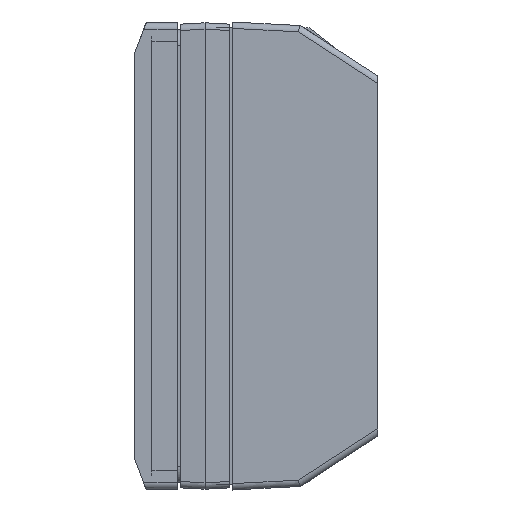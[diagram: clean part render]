
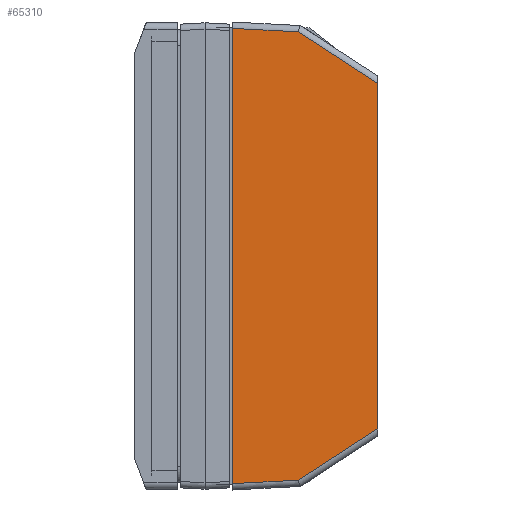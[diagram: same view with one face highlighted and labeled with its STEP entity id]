
A CAD part, left-side view. The second image highlights one B-rep face of the part: STEP entity #65310.
In plain terms, the highlighted planar face has unit normal (-1, 0, 0).
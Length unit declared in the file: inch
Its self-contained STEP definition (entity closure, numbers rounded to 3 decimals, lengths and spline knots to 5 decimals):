
#103 = DIRECTION ( 'NONE',  ( 0., 0., -1. ) ) ;
#1466 = CARTESIAN_POINT ( 'NONE',  ( -4.964, -0.24574, -2.30553 ) ) ;
#1855 = VERTEX_POINT ( 'NONE', #79575 ) ;
#9155 = LINE ( 'NONE', #1466, #49995 ) ;
#13700 = VERTEX_POINT ( 'NONE', #96145 ) ;
#14335 = VERTEX_POINT ( 'NONE', #19627 ) ;
#17980 = ORIENTED_EDGE ( 'NONE', *, *, #52574, .T. ) ;
#18739 = DIRECTION ( 'NONE',  ( 0., -0.839, 0.545 ) ) ;
#19627 = CARTESIAN_POINT ( 'NONE',  ( -4.964, -1.475, -1.75771 ) ) ;
#21577 = FACE_OUTER_BOUND ( 'NONE', #39091, .T. ) ;
#28662 = VERTEX_POINT ( 'NONE', #94950 ) ;
#32514 = LINE ( 'NONE', #48957, #33785 ) ;
#33785 = VECTOR ( 'NONE', #103, 39.37008 ) ;
#33942 = VECTOR ( 'NONE', #43071, 39.37008 ) ;
#34889 = CARTESIAN_POINT ( 'NONE',  ( -4.964, 0., 2.3835 ) ) ;
#35001 = DIRECTION ( 'NONE',  ( 0., 0.999, 0.052 ) ) ;
#35476 = EDGE_CURVE ( 'NONE', #81137, #14335, #103248, .T. ) ;
#36816 = ORIENTED_EDGE ( 'NONE', *, *, #57415, .T. ) ;
#39091 = EDGE_LOOP ( 'NONE', ( #66151, #52474, #52747, #36816, #95410, #17980 ) ) ;
#39492 = VECTOR ( 'NONE', #18739, 39.37008 ) ;
#40375 = LINE ( 'NONE', #34889, #33942 ) ;
#41308 = CARTESIAN_POINT ( 'NONE',  ( -4.964, 0., 2.3835 ) ) ;
#41930 = LINE ( 'NONE', #44350, #48274 ) ;
#43071 = DIRECTION ( 'NONE',  ( 0., 0., -1. ) ) ;
#44350 = CARTESIAN_POINT ( 'NONE',  ( -4.964, -0.65068, 2.29303 ) ) ;
#44361 = DIRECTION ( 'NONE',  ( 1., 0., 0. ) ) ;
#46384 = EDGE_CURVE ( 'NONE', #1855, #28662, #79354, .T. ) ;
#48274 = VECTOR ( 'NONE', #60747, 39.37008 ) ;
#48444 = CARTESIAN_POINT ( 'NONE',  ( -4.964, -1.475, 1.75771 ) ) ;
#48957 = CARTESIAN_POINT ( 'NONE',  ( -4.964, -1.475, 2.3835 ) ) ;
#49995 = VECTOR ( 'NONE', #59884, 39.37008 ) ;
#52474 = ORIENTED_EDGE ( 'NONE', *, *, #35476, .T. ) ;
#52574 = EDGE_CURVE ( 'NONE', #28662, #13700, #40375, .T. ) ;
#52747 = ORIENTED_EDGE ( 'NONE', *, *, #90232, .F. ) ;
#55329 = DIRECTION ( 'NONE',  ( 0., 0., -1. ) ) ;
#56912 = PLANE ( 'NONE',  #91903 ) ;
#57415 = EDGE_CURVE ( 'NONE', #92740, #1855, #41930, .T. ) ;
#59884 = DIRECTION ( 'NONE',  ( 0., -0.999, 0.052 ) ) ;
#60747 = DIRECTION ( 'NONE',  ( 0., 0.839, 0.545 ) ) ;
#65310 = ADVANCED_FACE ( 'NONE', ( #21577 ), #56912, .F. ) ;
#66151 = ORIENTED_EDGE ( 'NONE', *, *, #79653, .T. ) ;
#66877 = CARTESIAN_POINT ( 'NONE',  ( -4.964, -0.66529, -2.28354 ) ) ;
#67632 = CARTESIAN_POINT ( 'NONE',  ( -4.964, -1.4396, -1.7807 ) ) ;
#70488 = VECTOR ( 'NONE', #35001, 39.37008 ) ;
#74982 = CARTESIAN_POINT ( 'NONE',  ( -4.964, 0.0034, 2.31859 ) ) ;
#79354 = LINE ( 'NONE', #74982, #70488 ) ;
#79575 = CARTESIAN_POINT ( 'NONE',  ( -4.964, -0.66529, 2.28354 ) ) ;
#79653 = EDGE_CURVE ( 'NONE', #13700, #81137, #9155, .T. ) ;
#81137 = VERTEX_POINT ( 'NONE', #66877 ) ;
#90232 = EDGE_CURVE ( 'NONE', #92740, #14335, #32514, .T. ) ;
#91903 = AXIS2_PLACEMENT_3D ( 'NONE', #41308, #44361, #55329 ) ;
#92740 = VERTEX_POINT ( 'NONE', #48444 ) ;
#94950 = CARTESIAN_POINT ( 'NONE',  ( -4.964, 0., 2.31841 ) ) ;
#95410 = ORIENTED_EDGE ( 'NONE', *, *, #46384, .T. ) ;
#96145 = CARTESIAN_POINT ( 'NONE',  ( -4.964, 0., -2.31841 ) ) ;
#103248 = LINE ( 'NONE', #67632, #39492 ) ;
